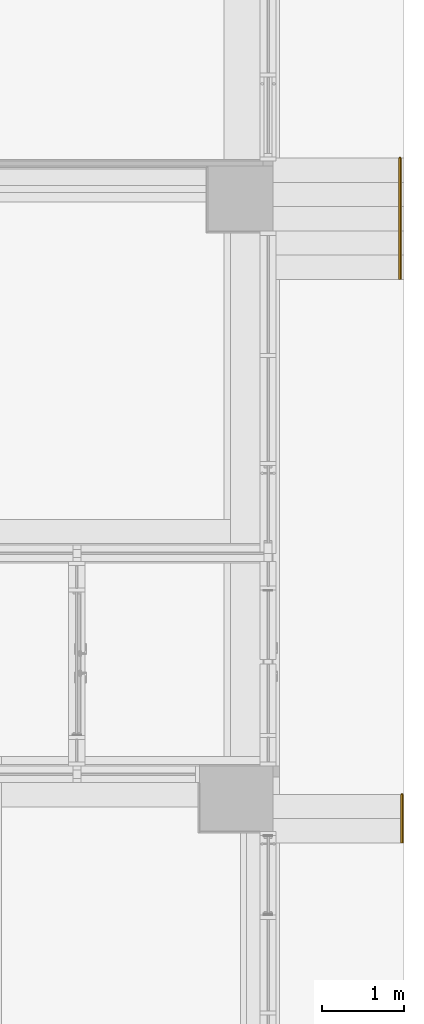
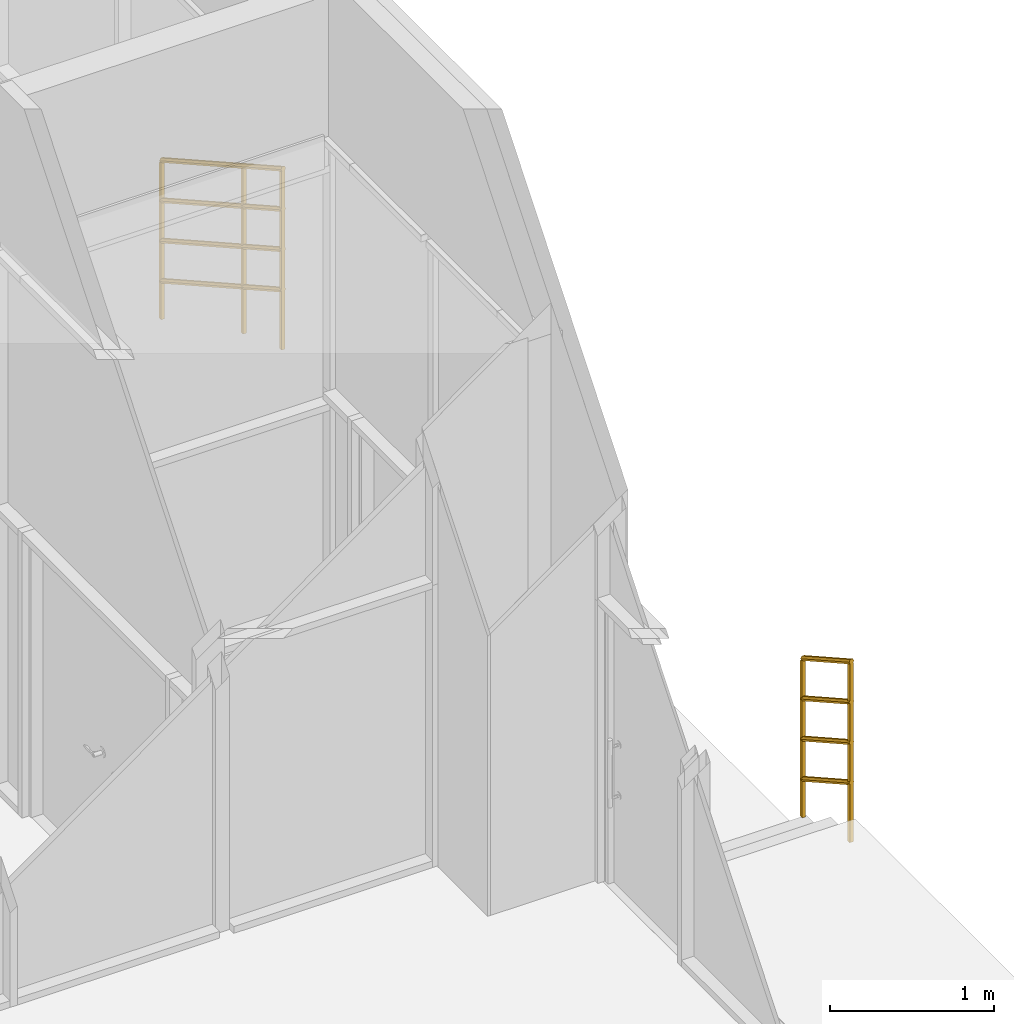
# One storey, part 84 of 100: 2 railings, 2 elements without a shape of their own.
"""IFC2X3 building model written with IfcOpenShell, lengths in millimetres."""

from ifc_helpers import new_model, entity, si_unit, converted_unit, derived_unit, direction, frame, origin, place, context, subcontext, project, spatial, faceted_brep, material, material_list, element, aggregate, save


model = new_model("IFC2X3")

# Units and contexts
model_context = context("Model", 3, precision=0.01, world=origin(), true_north=direction((6.123031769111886e-17, 1.0)))
body_context = subcontext(model_context, "Body", "Model", "MODEL_VIEW")
ifc_project = project(units=[si_unit("LENGTHUNIT", "METRE", prefix="MILLI"), si_unit("AREAUNIT", "SQUARE_METRE"), si_unit("VOLUMEUNIT", "CUBIC_METRE"), converted_unit("PLANEANGLEUNIT", "DEGREE", entity("IfcRatioMeasure", 0.017453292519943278), si_unit("PLANEANGLEUNIT", "RADIAN"), dimensions=[0, 0, 0, 0, 0, 0, 0]), si_unit("MASSUNIT", "GRAM", prefix="KILO"), derived_unit("MASSDENSITYUNIT", [(si_unit("MASSUNIT", "GRAM", prefix="KILO"), 1), (si_unit("LENGTHUNIT", "METRE"), -3)]), derived_unit("MOMENTOFINERTIAUNIT", [(si_unit("LENGTHUNIT", "METRE"), 4)]), si_unit("TIMEUNIT", "SECOND"), si_unit("FREQUENCYUNIT", "HERTZ"), si_unit("THERMODYNAMICTEMPERATUREUNIT", "DEGREE_CELSIUS"), derived_unit("THERMALTRANSMITTANCEUNIT", [(si_unit("MASSUNIT", "GRAM", prefix="KILO"), 1), (si_unit("THERMODYNAMICTEMPERATUREUNIT", "KELVIN"), -1), (si_unit("TIMEUNIT", "SECOND"), -3)]), derived_unit("VOLUMETRICFLOWRATEUNIT", [(si_unit("LENGTHUNIT", "METRE"), 3), (si_unit("TIMEUNIT", "SECOND"), -1)]), derived_unit("MASSFLOWRATEUNIT", [(si_unit("MASSUNIT", "GRAM", prefix="KILO"), 1), (si_unit("TIMEUNIT", "SECOND"), -1)]), derived_unit("ROTATIONALFREQUENCYUNIT", [(si_unit("TIMEUNIT", "SECOND"), -1)]), si_unit("ELECTRICCURRENTUNIT", "AMPERE"), si_unit("ELECTRICVOLTAGEUNIT", "VOLT"), si_unit("POWERUNIT", "WATT"), si_unit("FORCEUNIT", "NEWTON", prefix="KILO"), si_unit("ILLUMINANCEUNIT", "LUX"), si_unit("LUMINOUSFLUXUNIT", "LUMEN"), si_unit("LUMINOUSINTENSITYUNIT", "CANDELA"), derived_unit("USERDEFINED", [(si_unit("MASSUNIT", "GRAM", prefix="KILO"), -1), (si_unit("LENGTHUNIT", "METRE"), -2), (si_unit("TIMEUNIT", "SECOND"), 3), (si_unit("LUMINOUSFLUXUNIT", "LUMEN"), 1)]), derived_unit("SOUNDPOWERUNIT", [(si_unit("MASSUNIT", "GRAM", prefix="KILO"), 1), (si_unit("LENGTHUNIT", "METRE"), 2), (si_unit("TIMEUNIT", "SECOND"), -3)]), derived_unit("SOUNDPRESSUREUNIT", [(si_unit("MASSUNIT", "GRAM", prefix="KILO"), 1), (si_unit("LENGTHUNIT", "METRE"), -1), (si_unit("TIMEUNIT", "SECOND"), -2)]), derived_unit("LINEARVELOCITYUNIT", [(si_unit("LENGTHUNIT", "METRE"), 1), (si_unit("TIMEUNIT", "SECOND"), -1)]), si_unit("PRESSUREUNIT", "PASCAL"), derived_unit("USERDEFINED", [(si_unit("LENGTHUNIT", "METRE"), -2), (si_unit("MASSUNIT", "GRAM", prefix="KILO"), 1), (si_unit("TIMEUNIT", "SECOND"), -2)]), derived_unit("LINEARFORCEUNIT", [(si_unit("MASSUNIT", "GRAM", prefix="KILO"), 1), (si_unit("LENGTHUNIT", "METRE"), 1), (si_unit("TIMEUNIT", "SECOND"), -2), (si_unit("LENGTHUNIT", "METRE"), -1)]), derived_unit("PLANARFORCEUNIT", [(si_unit("MASSUNIT", "GRAM", prefix="KILO"), 1), (si_unit("LENGTHUNIT", "METRE"), 1), (si_unit("TIMEUNIT", "SECOND"), -2), (si_unit("LENGTHUNIT", "METRE"), -2)])], contexts=[model_context])

# Site, building, storey
site_placement = place(None, frame((-14167.972527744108, -657.2125860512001, 0.0)))
site = spatial("IfcSite", under=ifc_project, at=site_placement, Name="Default", CompositionType="ELEMENT")
building_placement = place(site_placement, origin())
building = spatial("IfcBuilding", under=site, at=building_placement, Name="Sample Building", CompositionType="ELEMENT")
storey_placement = place(building_placement, origin())
storey = spatial("IfcBuildingStorey", under=building, at=storey_placement, Name="지상 1층", CompositionType="ELEMENT", Elevation=0.0)

# Stair, railing
stair_1_placement = place(storey_placement, origin())
stair_1 = element("IfcStair", 1, at=stair_1_placement, inside=storey, Name="현장타설 계단:계단", ObjectType="현장타설 계단:ST111-철근콘크리트구조 계단 (직선형)", ShapeType="STRAIGHT_RUN_STAIR")
ifc_material_1 = material(Name="KBIMS-난간")
ifc_material_2 = material(Name="KBIMS-금속재")
ifc_material_list_1 = material_list([ifc_material_1, ifc_material_1, ifc_material_1, ifc_material_2, ifc_material_2, ifc_material_2, ifc_material_2])
railing_1_placement = place(stair_1_placement, frame((52998.878335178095, 19007.21230798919, -1333.3333333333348)))
railing_1 = element("IfcRailing", 2, at=railing_1_placement, material=ifc_material_list_1, Name="난간:RL780-금속재 난간", ObjectType="난간:RL780-금속재 난간", PredefinedType="NOTDEFINED", context=body_context, shape_type="Brep", body=[
    faceted_brep([(31.59527223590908, 495.8333333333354, 1719.7752808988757), (31.595272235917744, 495.8333333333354, 500.0), (6.595272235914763, 495.8333333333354, 500.0), (6.595272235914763, 495.8333333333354, 1719.7752808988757), (31.59527223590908, 470.8333333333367, 1733.8202247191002), (31.59527223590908, 470.83333333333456, 500.0), (6.595272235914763, 470.8333333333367, 1733.8202247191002), (6.5952722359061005, 470.8333333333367, 500.0)], [[[0, 1, 2, 3]], [[4, 5, 1, 0]], [[6, 7, 5, 4]], [[3, 2, 7, 6]], [[3, 6, 4, 0]], [[1, 5, 7, 2]]]),
    faceted_brep([(31.59527223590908, 25.0, 1984.2883895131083), (31.595272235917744, 25.0, 666.6666666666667), (6.595272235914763, 25.0, 666.6666666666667), (6.595272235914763, 25.0, 1984.2883895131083), (31.59527223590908, 0.0, 1998.3333333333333), (31.59527223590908, 0.0, 666.6666666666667), (6.595272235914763, 0.0, 1998.3333333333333), (6.5952722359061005, 0.0, 666.6666666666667)], [[[0, 1, 2, 3]], [[4, 5, 1, 0]], [[6, 7, 5, 4]], [[3, 2, 7, 6]], [[3, 6, 4, 0]], [[1, 5, 7, 2]]]),
    faceted_brep([(31.59527223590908, 1495.8333333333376, 1157.9775280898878), (31.595272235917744, 1495.8333333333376, 0.0), (6.595272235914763, 1495.8333333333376, 0.0), (6.595272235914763, 1495.8333333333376, 1157.9775280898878), (31.59527223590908, 1470.8333333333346, 1172.0224719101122), (31.59527223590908, 1470.833333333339, 0.0), (6.595272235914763, 1470.8333333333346, 1172.0224719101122), (6.5952722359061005, 1470.8333333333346, 0.0)], [[[0, 1, 2, 3]], [[4, 5, 1, 0]], [[6, 7, 5, 4]], [[3, 2, 7, 6]], [[3, 6, 4, 0]], [[1, 5, 7, 2]]]),
    faceted_brep([(30.032772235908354, 1483.3333333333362, 1192.964950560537), (32.220272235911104, 1483.3333333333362, 1188.6191140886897), (34.60355859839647, 1483.3333333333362, 1183.8843150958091), (36.59527223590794, 1483.3333333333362, 1179.927441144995), (34.40777223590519, 1483.3333333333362, 1175.581604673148), (32.220272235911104, 1483.3333333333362, 1171.2357682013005), (30.032772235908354, 1483.333333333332, 1166.8899317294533), (27.845272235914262, 1483.3333333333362, 1162.544095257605), (23.470272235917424, 1483.3333333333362, 1162.544095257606), (19.095272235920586, 1483.3333333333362, 1162.544095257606), (14.72027223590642, 1483.3333333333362, 1162.544095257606), (10.34527223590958, 1483.3333333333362, 1162.544095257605), (8.157772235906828, 1483.3333333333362, 1166.8899317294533), (5.97027223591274, 1483.3333333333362, 1171.2357682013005), (3.782772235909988, 1483.3333333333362, 1175.581604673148), (1.5952722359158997, 1483.3333333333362, 1179.927441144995), (3.586985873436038, 1483.3333333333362, 1183.8843150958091), (5.578699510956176, 1483.3333333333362, 1187.841189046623), (7.9619858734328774, 1483.3333333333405, 1192.5759880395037), (10.34527223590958, 1483.3333333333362, 1197.3107870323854), (14.720272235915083, 1483.3333333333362, 1197.3107870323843), (19.09527223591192, 1483.3333333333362, 1197.3107870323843), (23.470272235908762, 1483.3333333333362, 1197.3107870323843), (27.845272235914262, 1483.3333333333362, 1197.3107870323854), (10.34527223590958, 0.0, 2030.644120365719), (8.157772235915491, 0.0, 2026.29828389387), (5.97027223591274, 0.0, 2021.9524474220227), (3.7827722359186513, 0.0, 2017.6066109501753), (1.5952722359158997, 0.0, 2013.2607744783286), (3.586985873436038, 0.0, 2009.3039005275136), (5.97027223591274, 0.0, 2004.569101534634), (8.157772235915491, 0.0, 2000.2232650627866), (10.34527223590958, 0.0, 1995.8774285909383), (14.720272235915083, 0.0, 1995.8774285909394), (19.09527223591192, 0.0, 1995.8774285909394), (23.470272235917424, 0.0, 1995.8774285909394), (27.845272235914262, 0.0, 1995.8774285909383), (30.228558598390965, 0.0, 2000.6122275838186), (32.611844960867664, 0.0, 2005.347026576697), (34.60355859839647, 0.0, 2009.3039005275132), (36.59527223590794, 0.0, 2013.2607744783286), (34.40777223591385, 0.0, 2017.6066109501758), (32.220272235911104, 0.0, 2021.9524474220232), (30.032772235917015, 0.0, 2026.2982838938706), (27.845272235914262, 0.0, 2030.644120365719), (23.470272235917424, 0.0, 2030.6441203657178), (19.09527223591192, 0.0, 2030.6441203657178), (14.72027223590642, 0.0, 2030.6441203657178)], [[[0, 1, 2, 3, 4, 5, 6, 7, 8, 9, 10, 11, 12, 13, 14, 15, 16, 17, 18, 19, 20, 21, 22, 23]], [[24, 25, 26, 27, 28, 29, 30, 31, 32, 33, 34, 35, 36, 37, 38, 39, 40, 41, 42, 43, 44, 45, 46, 47]], [[17, 16, 15, 28, 27, 26, 25, 24, 19, 18]], [[1, 0, 23, 44, 43, 42, 41, 40, 3, 2]], [[21, 20, 19, 24, 47, 46, 45, 44, 23, 22]], [[5, 4, 3, 40, 39, 38, 37, 36, 7, 6]], [[33, 32, 11, 10, 9, 8, 7, 36, 35, 34]], [[29, 28, 15, 14, 13, 12, 11, 32, 31, 30]]]),
    faceted_brep([(30.032772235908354, 1483.3333333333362, 892.9649505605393), (32.220272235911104, 1483.3333333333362, 888.619114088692), (34.60355859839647, 1483.3333333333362, 883.8843150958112), (36.59527223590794, 1483.3333333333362, 879.9274411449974), (34.40777223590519, 1483.3333333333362, 875.5816046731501), (32.220272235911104, 1483.3333333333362, 871.2357682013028), (30.032772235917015, 1483.3333333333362, 866.8899317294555), (27.845272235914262, 1483.3333333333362, 862.5440952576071), (23.470272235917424, 1483.3333333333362, 862.5440952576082), (19.09527223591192, 1483.3333333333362, 862.5440952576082), (14.72027223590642, 1483.3333333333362, 862.5440952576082), (10.34527223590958, 1483.3333333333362, 862.5440952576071), (8.157772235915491, 1483.3333333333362, 866.8899317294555), (5.97027223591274, 1483.3333333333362, 871.2357682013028), (3.782772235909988, 1483.3333333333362, 875.5816046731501), (1.5952722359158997, 1483.3333333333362, 879.9274411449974), (3.586985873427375, 1483.3333333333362, 883.8843150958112), (5.578699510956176, 1483.3333333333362, 887.8411890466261), (7.9619858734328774, 1483.3333333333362, 892.5759880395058), (10.34527223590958, 1483.3333333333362, 897.3107870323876), (14.720272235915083, 1483.3333333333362, 897.3107870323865), (19.09527223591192, 1483.3333333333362, 897.3107870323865), (23.470272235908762, 1483.3333333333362, 897.3107870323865), (27.845272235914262, 1483.3333333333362, 897.3107870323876), (10.34527223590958, 0.0, 1730.644120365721), (8.157772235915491, 0.0, 1726.2982838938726), (5.97027223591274, 0.0, 1721.9524474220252), (3.782772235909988, 0.0, 1717.606610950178), (1.5952722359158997, 0.0, 1713.2607744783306), (3.586985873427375, 0.0, 1709.3039005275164), (5.97027223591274, 0.0, 1704.569101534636), (8.157772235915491, 0.0, 1700.2232650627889), (10.34527223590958, 0.0, 1695.8774285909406), (14.72027223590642, 0.0, 1695.8774285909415), (19.095272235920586, 0.0, 1695.8774285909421), (23.470272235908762, 0.0, 1695.8774285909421), (27.845272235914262, 0.0, 1695.877428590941), (30.228558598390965, 0.0, 1700.6122275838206), (32.611844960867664, 0.0, 1705.3470265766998), (34.60355859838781, 0.0, 1709.3039005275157), (36.59527223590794, 0.0, 1713.2607744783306), (34.40777223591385, 0.0, 1717.6066109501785), (32.220272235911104, 0.0, 1721.952447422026), (30.032772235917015, 0.0, 1726.2982838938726), (27.845272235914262, 0.0, 1730.644120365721), (23.470272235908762, 0.0, 1730.6441203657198), (19.09527223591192, 0.0, 1730.6441203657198), (14.720272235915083, 0.0, 1730.6441203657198)], [[[0, 1, 2, 3, 4, 5, 6, 7, 8, 9, 10, 11, 12, 13, 14, 15, 16, 17, 18, 19, 20, 21, 22, 23]], [[24, 25, 26, 27, 28, 29, 30, 31, 32, 33, 34, 35, 36, 37, 38, 39, 40, 41, 42, 43, 44, 45, 46, 47]], [[17, 16, 15, 28, 27, 26, 25, 24, 19, 18]], [[1, 0, 23, 44, 43, 42, 41, 40, 3, 2]], [[21, 20, 19, 24, 47, 46, 45, 44, 23, 22]], [[5, 4, 3, 40, 39, 38, 37, 36, 7, 6]], [[33, 32, 11, 10, 9, 8, 7, 36, 35, 34]], [[29, 28, 15, 14, 13, 12, 11, 32, 31, 30]]]),
    faceted_brep([(30.032772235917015, 1483.3333333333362, 592.9649505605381), (32.220272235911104, 1483.3333333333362, 588.6191140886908), (34.60355859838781, 1483.3333333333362, 583.88431509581), (36.59527223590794, 1483.3333333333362, 579.9274411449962), (34.40777223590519, 1483.3333333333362, 575.581604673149), (32.220272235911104, 1483.3333333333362, 571.2357682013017), (30.032772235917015, 1483.3333333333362, 566.8899317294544), (27.845272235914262, 1483.3333333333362, 562.5440952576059), (23.470272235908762, 1483.3333333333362, 562.5440952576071), (19.09527223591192, 1483.3333333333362, 562.5440952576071), (14.720272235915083, 1483.3333333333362, 562.5440952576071), (10.34527223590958, 1483.3333333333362, 562.5440952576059), (8.157772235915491, 1483.3333333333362, 566.8899317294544), (5.970272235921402, 1483.3333333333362, 571.2357682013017), (3.782772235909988, 1483.3333333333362, 575.581604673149), (1.5952722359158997, 1483.3333333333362, 579.9274411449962), (3.586985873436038, 1483.3333333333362, 583.88431509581), (5.578699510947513, 1483.3333333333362, 587.841189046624), (7.9619858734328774, 1483.3333333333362, 592.5759880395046), (10.34527223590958, 1483.3333333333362, 597.3107870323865), (14.72027223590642, 1483.3333333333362, 597.3107870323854), (19.09527223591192, 1483.3333333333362, 597.3107870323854), (23.470272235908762, 1483.333333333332, 597.3107870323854), (27.845272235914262, 1483.3333333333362, 597.3107870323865), (10.34527223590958, 0.0, 1430.6441203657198), (8.157772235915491, 0.0, 1426.2982838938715), (5.97027223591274, 0.0, 1421.9524474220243), (3.7827722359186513, 0.0, 1417.606610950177), (1.5952722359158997, 0.0, 1413.2607744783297), (3.586985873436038, 0.0, 1409.3039005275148), (5.97027223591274, 0.0, 1404.5691015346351), (8.157772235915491, 0.0, 1400.2232650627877), (10.34527223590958, 0.0, 1395.8774285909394), (14.720272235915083, 0.0, 1395.8774285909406), (19.09527223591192, 0.0, 1395.8774285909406), (23.470272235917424, 0.0, 1395.8774285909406), (27.845272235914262, 0.0, 1395.8774285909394), (30.228558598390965, 0.0, 1400.6122275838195), (32.611844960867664, 0.0, 1405.3470265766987), (34.60355859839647, 0.0, 1409.303900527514), (36.59527223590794, 0.0, 1413.2607744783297), (34.40777223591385, 0.0, 1417.606610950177), (32.220272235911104, 0.0, 1421.9524474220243), (30.032772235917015, 0.0, 1426.2982838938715), (27.845272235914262, 0.0, 1430.6441203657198), (23.470272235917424, 0.0, 1430.644120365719), (19.09527223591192, 0.0, 1430.644120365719), (14.72027223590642, 0.0, 1430.644120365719)], [[[0, 1, 2, 3, 4, 5, 6, 7, 8, 9, 10, 11, 12, 13, 14, 15, 16, 17, 18, 19, 20, 21, 22, 23]], [[24, 25, 26, 27, 28, 29, 30, 31, 32, 33, 34, 35, 36, 37, 38, 39, 40, 41, 42, 43, 44, 45, 46, 47]], [[17, 16, 15, 28, 27, 26, 25, 24, 19, 18]], [[1, 0, 23, 44, 43, 42, 41, 40, 3, 2]], [[21, 20, 19, 24, 47, 46, 45, 44, 23, 22]], [[5, 4, 3, 40, 39, 38, 37, 36, 7, 6]], [[33, 32, 11, 10, 9, 8, 7, 36, 35, 34]], [[29, 28, 15, 14, 13, 12, 11, 32, 31, 30]]]),
    faceted_brep([(30.032772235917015, 1483.3333333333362, 292.96495056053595), (32.220272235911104, 1483.3333333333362, 288.61911408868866), (34.60355859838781, 1483.3333333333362, 283.8843150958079), (36.59527223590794, 1483.3333333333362, 279.927441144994), (34.40777223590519, 1483.3333333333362, 275.5816046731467), (32.220272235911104, 1483.3333333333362, 271.23576820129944), (30.032772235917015, 1483.3333333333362, 266.88993172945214), (27.845272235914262, 1483.3333333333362, 262.5440952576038), (23.470272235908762, 1483.3333333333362, 262.54409525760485), (19.09527223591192, 1483.3333333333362, 262.54409525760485), (14.720272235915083, 1483.3333333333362, 262.54409525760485), (10.34527223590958, 1483.3333333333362, 262.5440952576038), (8.157772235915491, 1483.3333333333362, 266.88993172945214), (5.970272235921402, 1483.3333333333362, 271.23576820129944), (3.782772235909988, 1483.3333333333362, 275.5816046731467), (1.5952722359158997, 1483.3333333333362, 279.927441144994), (3.586985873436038, 1483.3333333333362, 283.8843150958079), (5.578699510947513, 1483.3333333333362, 287.84118904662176), (7.9619858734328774, 1483.3333333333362, 292.5759880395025), (10.34527223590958, 1483.3333333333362, 297.3107870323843), (14.72027223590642, 1483.3333333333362, 297.31078703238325), (19.09527223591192, 1483.3333333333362, 297.31078703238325), (23.470272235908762, 1483.333333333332, 297.31078703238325), (27.845272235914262, 1483.3333333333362, 297.3107870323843), (10.34527223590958, 0.0, 1130.6441203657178), (8.157772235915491, 0.0, 1126.2982838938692), (5.97027223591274, 0.0, 1121.952447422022), (3.7827722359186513, 0.0, 1117.6066109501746), (1.5952722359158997, 0.0, 1113.2607744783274), (3.586985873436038, 0.0, 1109.3039005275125), (5.97027223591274, 0.0, 1104.5691015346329), (8.157772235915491, 0.0, 1100.2232650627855), (10.34527223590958, 0.0, 1095.8774285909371), (14.720272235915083, 0.0, 1095.8774285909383), (19.09527223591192, 0.0, 1095.8774285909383), (23.470272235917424, 0.0, 1095.8774285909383), (27.845272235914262, 0.0, 1095.8774285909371), (30.228558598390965, 0.0, 1100.612227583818), (32.611844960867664, 0.0, 1105.3470265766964), (34.60355859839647, 0.0, 1109.3039005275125), (36.59527223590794, 0.0, 1113.2607744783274), (34.40777223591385, 0.0, 1117.6066109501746), (32.220272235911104, 0.0, 1121.952447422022), (30.032772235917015, 0.0, 1126.2982838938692), (27.845272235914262, 0.0, 1130.6441203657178), (23.470272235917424, 0.0, 1130.6441203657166), (19.09527223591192, 0.0, 1130.6441203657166), (14.72027223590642, 0.0, 1130.6441203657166)], [[[0, 1, 2, 3, 4, 5, 6, 7, 8, 9, 10, 11, 12, 13, 14, 15, 16, 17, 18, 19, 20, 21, 22, 23]], [[24, 25, 26, 27, 28, 29, 30, 31, 32, 33, 34, 35, 36, 37, 38, 39, 40, 41, 42, 43, 44, 45, 46, 47]], [[17, 16, 15, 28, 27, 26, 25, 24, 19, 18]], [[1, 0, 23, 44, 43, 42, 41, 40, 3, 2]], [[21, 20, 19, 24, 47, 46, 45, 44, 23, 22]], [[5, 4, 3, 40, 39, 38, 37, 36, 7, 6]], [[33, 32, 11, 10, 9, 8, 7, 36, 35, 34]], [[29, 28, 15, 14, 13, 12, 11, 32, 31, 30]]]),
])
aggregate(stair_1, [railing_1])

stair_2_placement = place(storey_placement, origin())
stair_2 = element("IfcStair", 3, at=stair_2_placement, inside=storey, Name="현장타설 계단:계단", ObjectType="현장타설 계단:ST111-철근콘크리트구조 계단 (직선형)", ShapeType="STRAIGHT_RUN_STAIR")
ifc_material_list_2 = material_list([ifc_material_1, ifc_material_1, ifc_material_2, ifc_material_2, ifc_material_2, ifc_material_2])
railing_2_placement = place(stair_2_placement, frame((53023.47833517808, 12117.212729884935, -333.33333333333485)))
railing_2 = element("IfcRailing", 4, at=railing_2_placement, material=ifc_material_list_2, Name="난간:RL780-금속재 난간", ObjectType="난간:RL780-금속재 난간", PredefinedType="NOTDEFINED", context=body_context, shape_type="Brep", body=[
    faceted_brep([(31.59527223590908, 25.0, 1484.2883895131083), (31.595272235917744, 25.0, 166.66666666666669), (6.595272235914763, 25.0, 166.66666666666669), (6.595272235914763, 25.0, 1484.2883895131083), (31.59527223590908, 0.0, 1498.3333333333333), (31.59527223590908, 0.0, 166.66666666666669), (6.595272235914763, 0.0, 1498.3333333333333), (6.5952722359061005, 0.0, 166.66666666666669)], [[[0, 1, 2, 3]], [[4, 5, 1, 0]], [[6, 7, 5, 4]], [[3, 2, 7, 6]], [[3, 6, 4, 0]], [[1, 5, 7, 2]]]),
    faceted_brep([(31.59527223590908, 605.8333333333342, 1157.9775280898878), (31.595272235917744, 605.8333333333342, 0.0), (6.595272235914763, 605.8333333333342, 0.0), (6.595272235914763, 605.8333333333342, 1157.9775280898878), (31.59527223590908, 580.8333333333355, 1172.0224719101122), (31.59527223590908, 580.8333333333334, 0.0), (6.595272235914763, 580.8333333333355, 1172.0224719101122), (6.5952722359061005, 580.8333333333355, 0.0)], [[[0, 1, 2, 3]], [[4, 5, 1, 0]], [[6, 7, 5, 4]], [[3, 2, 7, 6]], [[3, 6, 4, 0]], [[1, 5, 7, 2]]]),
    faceted_brep([(30.032772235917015, 593.3333333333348, 1192.9649505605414), (32.220272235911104, 593.3333333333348, 1188.619114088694), (34.12691991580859, 593.3333333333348, 1184.831237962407), (36.59527223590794, 593.3333333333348, 1179.9274411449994), (34.12691991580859, 593.3333333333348, 1175.0236443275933), (32.220272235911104, 593.3333333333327, 1171.2357682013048), (30.032772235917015, 593.3333333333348, 1166.8899317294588), (27.845272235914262, 593.3333333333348, 1162.5440952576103), (23.470272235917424, 593.3333333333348, 1162.5440952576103), (19.09527223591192, 593.3333333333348, 1162.5440952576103), (14.72027223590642, 593.3333333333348, 1162.5440952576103), (10.34527223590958, 593.3333333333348, 1162.5440952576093), (8.157772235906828, 593.3333333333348, 1166.8899317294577), (5.97027223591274, 593.3333333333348, 1171.2357682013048), (3.782772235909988, 593.3333333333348, 1175.5816046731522), (1.5952722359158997, 593.3333333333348, 1179.9274411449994), (4.06362455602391, 593.3333333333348, 1184.831237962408), (6.531976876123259, 593.333333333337, 1189.7350347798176), (8.43862455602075, 593.3333333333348, 1193.5229109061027), (10.34527223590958, 593.3333333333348, 1197.3107870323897), (14.72027223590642, 593.3333333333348, 1197.3107870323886), (19.09527223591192, 593.3333333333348, 1197.3107870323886), (23.470272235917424, 593.3333333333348, 1197.3107870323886), (27.845272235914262, 593.3333333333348, 1197.3107870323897), (8.157772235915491, 0.0, 1526.2982838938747), (5.97027223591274, 0.0, 1521.9524474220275), (4.063624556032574, 0.0, 1518.164571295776), (1.5952722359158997, 0.0, 1513.260774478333), (4.06362455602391, 0.0, 1508.3569776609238), (5.97027223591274, 0.0, 1504.5691015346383), (8.157772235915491, 0.0, 1500.223265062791), (10.34527223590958, 0.0, 1495.8774285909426), (14.72027223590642, 0.0, 1495.8774285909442), (19.09527223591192, 0.0, 1495.8774285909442), (23.470272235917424, 0.0, 1495.8774285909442), (27.845272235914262, 0.0, 1495.877428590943), (29.751919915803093, 0.0, 1499.6653047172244), (31.658567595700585, 0.0, 1503.4531808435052), (34.12691991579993, 0.0, 1508.356977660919), (36.59527223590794, 0.0, 1513.260774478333), (34.40777223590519, 0.0, 1517.6066109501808), (32.220272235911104, 0.0, 1521.9524474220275), (30.032772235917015, 0.0, 1526.2982838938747), (27.845272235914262, 0.0, 1530.6441203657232), (23.470272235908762, 0.0, 1530.644120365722), (19.09527223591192, 0.0, 1530.644120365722), (14.720272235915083, 0.0, 1530.644120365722), (10.34527223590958, 0.0, 1530.6441203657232)], [[[0, 1, 2, 3, 4, 5, 6, 7, 8, 9, 10, 11, 12, 13, 14, 15, 16, 17, 18, 19, 20, 21, 22, 23]], [[24, 25, 26, 27, 28, 29, 30, 31, 32, 33, 34, 35, 36, 37, 38, 39, 40, 41, 42, 43, 44, 45, 46, 47]], [[44, 43, 23, 22, 21, 20, 19, 47, 46, 45]], [[1, 0, 23, 43, 42, 41, 40, 39, 3, 2]], [[25, 24, 47, 19, 18, 17, 16, 15, 27, 26]], [[7, 6, 5, 4, 3, 39, 38, 37, 36, 35]], [[32, 31, 11, 10, 9, 8, 7, 35, 34, 33]], [[27, 15, 14, 13, 12, 11, 31, 30, 29, 28]]]),
    faceted_brep([(30.032772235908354, 593.3333333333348, 892.9649505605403), (32.220272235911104, 593.3333333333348, 888.619114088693), (34.12691991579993, 593.3333333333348, 884.8312379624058), (36.59527223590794, 593.3333333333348, 879.9274411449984), (34.12691991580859, 593.3333333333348, 875.023644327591), (32.220272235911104, 593.3333333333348, 871.2357682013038), (30.032772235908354, 593.3333333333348, 866.8899317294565), (27.845272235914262, 593.3333333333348, 862.5440952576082), (23.470272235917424, 593.3333333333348, 862.5440952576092), (19.09527223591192, 593.3333333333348, 862.5440952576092), (14.72027223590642, 593.333333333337, 862.5440952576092), (10.34527223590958, 593.3333333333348, 862.5440952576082), (8.157772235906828, 593.3333333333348, 866.8899317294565), (5.97027223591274, 593.3333333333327, 871.2357682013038), (3.7827722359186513, 593.333333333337, 875.5816046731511), (1.5952722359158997, 593.3333333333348, 879.9274411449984), (4.06362455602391, 593.3333333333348, 884.8312379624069), (6.531976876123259, 593.3333333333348, 889.7350347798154), (8.43862455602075, 593.3333333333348, 893.5229109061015), (10.34527223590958, 593.3333333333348, 897.3107870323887), (14.720272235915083, 593.3333333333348, 897.3107870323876), (19.09527223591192, 593.3333333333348, 897.3107870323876), (23.470272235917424, 593.3333333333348, 897.3107870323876), (27.845272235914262, 593.3333333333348, 897.3107870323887), (10.34527223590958, 0.0, 1230.644120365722), (8.157772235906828, 0.0, 1226.2982838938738), (5.97027223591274, 0.0, 1221.9524474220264), (4.063624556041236, 0.0, 1218.164571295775), (1.5952722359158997, 0.0, 1213.2607744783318), (4.06362455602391, 0.0, 1208.3569776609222), (5.97027223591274, 0.0, 1204.5691015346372), (8.157772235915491, 0.0, 1200.2232650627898), (10.34527223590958, 0.0, 1195.8774285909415), (14.72027223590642, 0.0, 1195.8774285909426), (19.09527223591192, 0.0, 1195.8774285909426), (23.470272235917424, 0.0, 1195.8774285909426), (27.845272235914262, 0.0, 1195.8774285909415), (29.751919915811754, 0.0, 1199.6653047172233), (31.658567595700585, 0.0, 1203.453180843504), (34.12691991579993, 0.0, 1208.356977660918), (36.59527223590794, 0.0, 1213.2607744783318), (34.40777223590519, 0.0, 1217.6066109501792), (32.220272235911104, 0.0, 1221.9524474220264), (30.032772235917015, 0.0, 1226.2982838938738), (27.845272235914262, 0.0, 1230.644120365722), (23.470272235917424, 0.0, 1230.644120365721), (19.09527223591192, 0.0, 1230.644120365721), (14.72027223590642, 0.0, 1230.644120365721)], [[[0, 1, 2, 3, 4, 5, 6, 7, 8, 9, 10, 11, 12, 13, 14, 15, 16, 17, 18, 19, 20, 21, 22, 23]], [[24, 25, 26, 27, 28, 29, 30, 31, 32, 33, 34, 35, 36, 37, 38, 39, 40, 41, 42, 43, 44, 45, 46, 47]], [[45, 44, 23, 22, 21, 20, 19, 24, 47, 46]], [[1, 0, 23, 44, 43, 42, 41, 40, 3, 2]], [[26, 25, 24, 19, 18, 17, 16, 15, 28, 27]], [[7, 6, 5, 4, 3, 40, 39, 38, 37, 36]], [[33, 32, 11, 10, 9, 8, 7, 36, 35, 34]], [[28, 15, 14, 13, 12, 11, 32, 31, 30, 29]]]),
    faceted_brep([(30.032772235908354, 593.3333333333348, 592.9649505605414), (32.220272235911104, 593.3333333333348, 588.6191140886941), (34.12691991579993, 593.3333333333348, 584.8312379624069), (36.59527223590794, 593.3333333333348, 579.9274411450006), (34.12691991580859, 593.3333333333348, 575.0236443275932), (32.220272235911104, 593.3333333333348, 571.235768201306), (30.032772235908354, 593.3333333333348, 566.8899317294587), (27.845272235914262, 593.3333333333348, 562.5440952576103), (23.470272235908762, 593.3333333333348, 562.5440952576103), (19.09527223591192, 593.3333333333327, 562.5440952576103), (14.72027223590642, 593.3333333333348, 562.5440952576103), (10.34527223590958, 593.3333333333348, 562.5440952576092), (8.157772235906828, 593.3333333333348, 566.8899317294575), (5.97027223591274, 593.3333333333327, 571.2357682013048), (3.7827722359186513, 593.333333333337, 575.5816046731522), (1.5952722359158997, 593.3333333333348, 579.9274411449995), (4.06362455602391, 593.3333333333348, 584.831237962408), (6.531976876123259, 593.3333333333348, 589.7350347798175), (8.438624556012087, 593.3333333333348, 593.5229109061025), (10.34527223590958, 593.3333333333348, 597.3107870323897), (14.720272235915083, 593.3333333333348, 597.3107870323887), (19.09527223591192, 593.3333333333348, 597.3107870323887), (23.470272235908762, 593.3333333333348, 597.3107870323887), (27.845272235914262, 593.3333333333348, 597.3107870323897), (10.34527223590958, 0.0, 930.6441203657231), (8.157772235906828, 0.0, 926.2982838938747), (5.97027223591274, 0.0, 921.9524474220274), (4.063624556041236, 0.0, 918.164571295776), (1.5952722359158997, 0.0, 913.2607744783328), (4.06362455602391, 0.0, 908.3569776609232), (5.97027223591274, 0.0, 904.5691015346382), (8.157772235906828, 0.0, 900.2232650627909), (10.34527223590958, 0.0, 895.8774285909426), (14.720272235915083, 0.0, 895.8774285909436), (19.09527223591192, 0.0, 895.8774285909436), (23.470272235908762, 0.0, 895.8774285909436), (27.845272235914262, 0.0, 895.8774285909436), (29.751919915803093, 0.0, 899.6653047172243), (31.658567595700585, 0.0, 903.453180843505), (34.12691991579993, 0.0, 908.3569776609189), (36.59527223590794, 0.0, 913.2607744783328), (34.40777223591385, 0.0, 917.6066109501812), (32.220272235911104, 0.0, 921.9524474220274), (30.032772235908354, 0.0, 926.2982838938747), (27.845272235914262, 0.0, 930.6441203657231), (23.470272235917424, 0.0, 930.6441203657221), (19.09527223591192, 0.0, 930.6441203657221), (14.72027223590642, 0.0, 930.6441203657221)], [[[0, 1, 2, 3, 4, 5, 6, 7, 8, 9, 10, 11, 12, 13, 14, 15, 16, 17, 18, 19, 20, 21, 22, 23]], [[24, 25, 26, 27, 28, 29, 30, 31, 32, 33, 34, 35, 36, 37, 38, 39, 40, 41, 42, 43, 44, 45, 46, 47]], [[45, 44, 23, 22, 21, 20, 19, 24, 47, 46]], [[1, 0, 23, 44, 43, 42, 41, 40, 3, 2]], [[26, 25, 24, 19, 18, 17, 16, 15, 28, 27]], [[7, 6, 5, 4, 3, 40, 39, 38, 37, 36]], [[33, 32, 11, 10, 9, 8, 7, 36, 35, 34]], [[28, 15, 14, 13, 12, 11, 32, 31, 30, 29]]]),
    faceted_brep([(30.032772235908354, 593.3333333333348, 292.96495056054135), (32.220272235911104, 593.3333333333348, 288.61911408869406), (34.12691991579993, 593.3333333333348, 284.8312379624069), (36.59527223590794, 593.3333333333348, 279.9274411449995), (34.12691991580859, 593.3333333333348, 275.02364432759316), (32.220272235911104, 593.3333333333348, 271.235768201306), (30.032772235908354, 593.3333333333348, 266.8899317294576), (27.845272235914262, 593.3333333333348, 262.5440952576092), (23.470272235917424, 593.3333333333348, 262.5440952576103), (19.09527223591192, 593.3333333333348, 262.5440952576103), (14.72027223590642, 593.333333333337, 262.5440952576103), (10.34527223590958, 593.3333333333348, 262.5440952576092), (8.157772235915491, 593.3333333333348, 266.8899317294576), (5.97027223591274, 593.3333333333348, 271.2357682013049), (3.782772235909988, 593.3333333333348, 275.5816046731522), (1.5952722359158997, 593.3333333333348, 279.9274411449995), (4.06362455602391, 593.3333333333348, 284.83123796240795), (6.531976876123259, 593.3333333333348, 289.7350347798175), (8.438624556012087, 593.3333333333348, 293.52291090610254), (10.34527223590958, 593.3333333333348, 297.3107870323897), (14.720272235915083, 593.3333333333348, 297.31078703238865), (19.09527223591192, 593.3333333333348, 297.31078703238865), (23.470272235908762, 593.3333333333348, 297.31078703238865), (27.845272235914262, 593.3333333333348, 297.3107870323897), (10.34527223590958, 0.0, 630.6441203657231), (8.157772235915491, 0.0, 626.2982838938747), (5.97027223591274, 0.0, 621.9524474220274), (4.063624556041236, 0.0, 618.164571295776), (1.5952722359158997, 0.0, 613.2607744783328), (4.063624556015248, 0.0, 608.3569776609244), (5.97027223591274, 0.0, 604.5691015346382), (8.157772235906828, 0.0, 600.2232650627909), (10.34527223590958, 0.0, 595.8774285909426), (14.72027223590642, 0.0, 595.8774285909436), (19.09527223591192, 0.0, 595.8774285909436), (23.470272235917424, 0.0, 595.8774285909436), (27.845272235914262, 0.0, 595.8774285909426), (29.751919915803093, 0.0, 599.6653047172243), (31.658567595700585, 0.0, 603.453180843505), (34.12691991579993, 0.0, 608.3569776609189), (36.59527223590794, 0.0, 613.2607744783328), (34.40777223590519, 0.0, 617.6066109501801), (32.220272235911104, 0.0, 621.9524474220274), (30.032772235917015, 0.0, 626.2982838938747), (27.845272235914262, 0.0, 630.6441203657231), (23.470272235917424, 0.0, 630.644120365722), (19.09527223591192, 0.0, 630.644120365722), (14.72027223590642, 0.0, 630.644120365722)], [[[0, 1, 2, 3, 4, 5, 6, 7, 8, 9, 10, 11, 12, 13, 14, 15, 16, 17, 18, 19, 20, 21, 22, 23]], [[24, 25, 26, 27, 28, 29, 30, 31, 32, 33, 34, 35, 36, 37, 38, 39, 40, 41, 42, 43, 44, 45, 46, 47]], [[45, 44, 23, 22, 21, 20, 19, 24, 47, 46]], [[1, 0, 23, 44, 43, 42, 41, 40, 3, 2]], [[26, 25, 24, 19, 18, 17, 16, 15, 28, 27]], [[7, 6, 5, 4, 3, 40, 39, 38, 37, 36]], [[33, 32, 11, 10, 9, 8, 7, 36, 35, 34]], [[28, 15, 14, 13, 12, 11, 32, 31, 30, 29]]]),
])
aggregate(stair_2, [railing_2])

save(model, "model.ifc")
